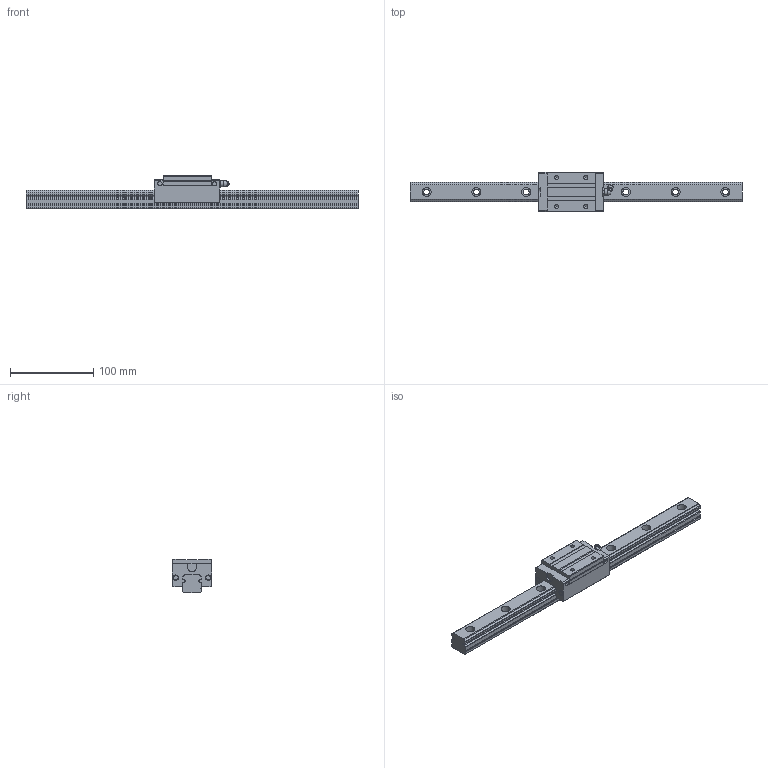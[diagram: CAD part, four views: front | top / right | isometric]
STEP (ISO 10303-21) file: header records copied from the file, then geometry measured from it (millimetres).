
FILE_DESCRIPTION((''),'2;1');
FILE_NAME('D:\製品 (図面)\カタログ用3D\リニアガイド関連\STEP形式\LGHR\LGHR25.stp','2010-06-02T15:52:19',('Tsuchiya'),(''),'Autodesk Inventor 10','Autodesk Inventor 10','');
FILE_SCHEMA(('AUTOMOTIVE_DESIGN { 1 0 10303 214 1 1 1 1 }'));
Length unit declared in the file: millimetre
Products named in the file (3): LGHR25; LGHR251; LGHR252
Assembly tree (2 placements, depth 2):
  LGHR25
    LGHR251
    LGHR252
Bounding box: 400 x 48 x 40 mm (x, y, z)
Volume: 270445.8 mm3; surface area: 63384.7 mm2
Topology: 2 solids, 2 shells, 190 faces, 492 edges, 325 vertices
Faces by surface type: plane 97, cylinder 46, bspline 41, cone 4, sphere 2
Full cylindrical faces by diameter (mm): 4.917 x2, 5.2 x2, 5.5 x2, 6.5 x2, 7 x1, 7.7 x1
Entity records: 6112 total; most frequent: CARTESIAN_POINT 1605, DIRECTION 888, ORIENTED_EDGE 880, EDGE_CURVE 440, VERTEX_POINT 316, AXIS2_PLACEMENT_3D 298, VECTOR 292, LINE 292
